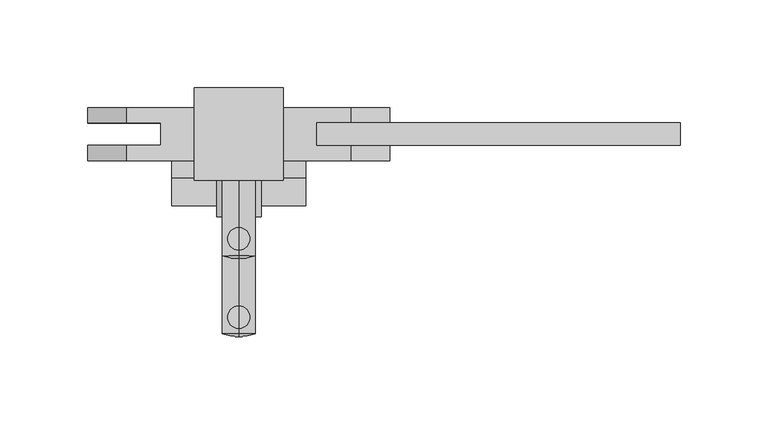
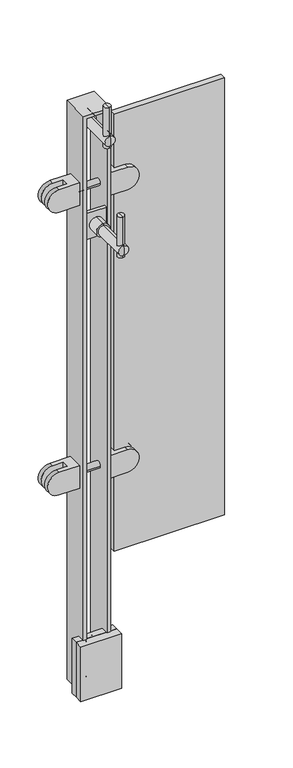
"""IFC4 building model written with IfcOpenShell, lengths in millimetres: proxy geometry, LIVERS_ICN - Glass Panel : LIVERS_ICN - Glass Panel."""

from ifc_helpers import new_model, si_unit, point, frame, origin, place, context, project, spatial, polyline, circle_curve, ellipse_curve, trimmed, outline, extrude, faceted_brep, source, transform, mapped, element, save
from ifc_brep_helpers import plane_surface, cylinder_surface, revolved_surface, advanced_brep


def building_element_proxy_ce7cafca(model_context):
    return source(origin(), model_context, "Body", "SolidModel", [
        advanced_brep(
        [(469.7283346, 60.3249609, 991.2180522), (469.7283346, 60.3249609, 978.5180522), (469.7283346, 60.3249609, 965.8180522), (469.7283346, 38.0999609, 991.2180522), (469.7283346, 38.0999609, 965.8180522), (469.7283346, 38.0999609, 978.5180522)],
        [
            (0, 1),
            (1, 2),
            (2, 0, circle_curve(frame((469.7283346, 60.3249609, 978.5180522), z_axis=(0.0, 1.0, 0.0), x_axis=(0.0, 0.0, -1.0)), 12.7)),
            (0, 2, circle_curve(frame((469.7283346, 60.3249609, 978.5180522), z_axis=(0.0, 1.0, 0.0), x_axis=(0.0, 0.0, -1.0)), 12.7)),
            (3, 0),
            (2, 4),
            (4, 3, circle_curve(frame((469.7283346, 38.0999609, 978.5180522), z_axis=(0.0, 1.0, 0.0), x_axis=(0.0, 0.0, -1.0)), 12.7)),
            (3, 4, circle_curve(frame((469.7283346, 38.0999609, 978.5180522), z_axis=(0.0, 1.0, 0.0), x_axis=(0.0, 0.0, -1.0)), 12.7)),
            (5, 3),
            (4, 5),
        ],
        [
            plane_surface(frame((469.7283346, 60.3249609, 978.5180522), z_axis=(0.0, 1.0, 0.0), x_axis=(0.0, 0.0, -1.0))),
            cylinder_surface(frame((469.7283346, 69.3828283, 978.5180522), z_axis=(0.0, -1.0, 0.0), x_axis=(0.0, 0.0, -1.0)), 12.7),
            plane_surface(frame((469.7283346, 38.0999609, 978.5180522), z_axis=(0.0, -1.0, 0.0), x_axis=(0.0, 0.0, -1.0))),
        ],
        [
            (0, [[1, 2, 3]]),
            (0, [[-2, -1, 4]]),
            (1, [[5, -3, 6, 7]]),
            (1, [[-6, -4, -5, 8]]),
            (2, [[9, -7, 10]]),
            (2, [[-10, -8, -9]]),
        ],
    ),
        advanced_brep(
        [(469.7283346, -25.4004131, 1043.1838845), (469.7283346, -19.0504161, 1043.1838845), (469.7283346, -12.7004191, 1043.1838845), (469.7283346, -25.4004131, 962.7878163), (469.7283346, -12.7004191, 962.7878163), (469.7283346, -19.0504161, 962.7878163)],
        [
            (0, 1),
            (1, 2),
            (2, 0, circle_curve(frame((469.7283346, -19.0504161, 1043.1838845), z_axis=(0.0, 0.0, 1.0), x_axis=(0.0, 1.0, 0.0)), 6.349997)),
            (0, 2, circle_curve(frame((469.7283346, -19.0504161, 1043.1838845), z_axis=(0.0, 0.0, 1.0), x_axis=(0.0, 1.0, 0.0)), 6.349997)),
            (3, 0),
            (2, 4),
            (4, 3, circle_curve(frame((469.7283346, -19.0504161, 962.7878163), z_axis=(0.0, 0.0, 1.0), x_axis=(0.0, 1.0, 0.0)), 6.349997)),
            (3, 4, circle_curve(frame((469.7283346, -19.0504161, 962.7878163), z_axis=(0.0, 0.0, 1.0), x_axis=(0.0, 1.0, 0.0)), 6.349997)),
            (5, 3),
            (4, 5),
        ],
        [
            plane_surface(frame((469.7283346, -19.0504161, 1043.1838845), z_axis=(0.0, 0.0, 1.0), x_axis=(0.0, 1.0, 0.0))),
            cylinder_surface(frame((469.7283346, -19.0504161, 1057.0348914), z_axis=(0.0, 0.0, -1.0), x_axis=(0.0, 1.0, 0.0)), 6.349997),
            plane_surface(frame((469.7283346, -19.0504161, 962.7878163), z_axis=(0.0, 0.0, -1.0), x_axis=(0.0, 1.0, 0.0))),
        ],
        [
            (0, [[1, 2, 3]]),
            (0, [[-2, -1, 4]]),
            (1, [[5, -3, 6, 7]]),
            (1, [[-6, -4, -5, 8]]),
            (2, [[9, -7, 10]]),
            (2, [[-10, -8, -9]]),
        ],
    ),
        advanced_brep(
        [(469.7283346, -30.1375464, 978.5180522), (469.7283346, -28.5500464, 988.0430522), (469.7283346, -28.5500464, 968.9930522), (469.7283346, 38.0999609, 988.0430522), (469.7283346, 38.0999609, 978.5180522), (469.7283346, 38.0999609, 968.9930522)],
        [
            (0, 1, circle_curve(frame((469.7283346, -0.7687964, 978.5180522), z_axis=(-1.0, 0.0, 0.0), x_axis=(0.0, 1.0, 0.0)), 29.36875)),
            (1, 2, circle_curve(frame((469.7283346, -28.5500464, 978.5180522), z_axis=(0.0, -1.0, 0.0), x_axis=(0.0, 0.0, -1.0)), 9.525)),
            (2, 0, circle_curve(frame((469.7283346, -0.7687964, 978.5180522), z_axis=(-1.0, 0.0, 0.0), x_axis=(0.0, 1.0, 0.0)), 29.36875)),
            (2, 1, circle_curve(frame((469.7283346, -28.5500464, 978.5180522), z_axis=(0.0, -1.0, 0.0), x_axis=(0.0, 0.0, -1.0)), 9.525)),
            (3, 4),
            (4, 5),
            (5, 3, circle_curve(frame((469.7283346, 38.0999609, 978.5180522), z_axis=(0.0, 1.0, 0.0), x_axis=(0.0, 0.0, -1.0)), 9.525)),
            (3, 5, circle_curve(frame((469.7283346, 38.0999609, 978.5180522), z_axis=(0.0, 1.0, 0.0), x_axis=(0.0, 0.0, -1.0)), 9.525)),
            (1, 3),
            (5, 2),
        ],
        [
            revolved_surface(trimmed(ellipse_curve(frame((469.7283346, -0.7687964, 978.5180522), z_axis=(-1.0, 0.0, 0.0), x_axis=(0.0, 1.0, 0.0)), 29.36875, 29.36875), [point((469.7283346, -28.5500464, 968.9930522))], [point((469.7283346, -30.1375464, 978.5180522))], True, "CARTESIAN"), (469.7283346, 30.3031204, 978.5180522), (0.0, -1.0, 0.0)),
            plane_surface(frame((469.7283346, 38.0999609, 978.5180522), z_axis=(0.0, 1.0, 0.0), x_axis=(0.0, 0.0, -1.0))),
            cylinder_surface(frame((469.7283346, 30.3031204, 978.5180522), z_axis=(0.0, -1.0, 0.0), x_axis=(0.0, 0.0, -1.0)), 9.525),
        ],
        [
            (0, [[1, 2, 3]]),
            (0, [[-3, 4, -1]]),
            (1, [[5, 6, 7]]),
            (1, [[-6, -5, 8]]),
            (2, [[9, -7, 10, -2]]),
            (2, [[-10, -8, -9, -4]]),
        ],
    ),
        extrude(outline(polyline([(488.7783346, 66.6749609), (488.7783346, 60.3249609), (450.6783346, 60.3249609), (450.6783346, 66.6749609), (488.7783346, 66.6749609)])), frame((0.0, 0.0, 953.1180522), z_axis=(0.0, 0.0, 1.0), x_axis=(1.0, 0.0, 0.0)), (0.0, 0.0, 1.0), 50.8),
        advanced_brep(
        [(469.7283346, 15.875, 802.0090959), (469.7283346, 15.875, 789.3090959), (469.7283346, 15.875, 776.6090959), (469.7283346, -6.35, 802.0090959), (469.7283346, -6.35, 776.6090959), (469.7283346, -6.35, 789.3090959)],
        [
            (0, 1),
            (1, 2),
            (2, 0, circle_curve(frame((469.7283346, 15.875, 789.3090959), z_axis=(0.0, 1.0, 0.0), x_axis=(0.0, 0.0, -1.0)), 12.7)),
            (0, 2, circle_curve(frame((469.7283346, 15.875, 789.3090959), z_axis=(0.0, 1.0, 0.0), x_axis=(0.0, 0.0, -1.0)), 12.7)),
            (3, 0),
            (2, 4),
            (4, 3, circle_curve(frame((469.7283346, -6.35, 789.3090959), z_axis=(0.0, 1.0, 0.0), x_axis=(0.0, 0.0, -1.0)), 12.7)),
            (3, 4, circle_curve(frame((469.7283346, -6.35, 789.3090959), z_axis=(0.0, 1.0, 0.0), x_axis=(0.0, 0.0, -1.0)), 12.7)),
            (5, 3),
            (4, 5),
        ],
        [
            plane_surface(frame((469.7283346, 15.875, 789.3090959), z_axis=(0.0, 1.0, 0.0), x_axis=(0.0, 0.0, -1.0))),
            cylinder_surface(frame((469.7283346, 24.9328674, 789.3090959), z_axis=(0.0, -1.0, 0.0), x_axis=(0.0, 0.0, -1.0)), 12.7),
            plane_surface(frame((469.7283346, -6.35, 789.3090959), z_axis=(0.0, -1.0, 0.0), x_axis=(0.0, 0.0, -1.0))),
        ],
        [
            (0, [[1, 2, 3]]),
            (0, [[-2, -1, 4]]),
            (1, [[5, -3, 6, 7]]),
            (1, [[-6, -4, -5, 8]]),
            (2, [[9, -7, 10]]),
            (2, [[-10, -8, -9]]),
        ],
    ),
        advanced_brep(
        [(469.7283346, -69.850374, 853.9749282), (469.7283346, -63.500377, 853.9749282), (469.7283346, -57.15038, 853.9749282), (469.7283346, -69.850374, 773.57886), (469.7283346, -57.15038, 773.57886), (469.7283346, -63.500377, 773.57886)],
        [
            (0, 1),
            (1, 2),
            (2, 0, circle_curve(frame((469.7283346, -63.500377, 853.9749282), z_axis=(0.0, 0.0, 1.0), x_axis=(0.0, 1.0, 0.0)), 6.349997)),
            (0, 2, circle_curve(frame((469.7283346, -63.500377, 853.9749282), z_axis=(0.0, 0.0, 1.0), x_axis=(0.0, 1.0, 0.0)), 6.349997)),
            (3, 0),
            (2, 4),
            (4, 3, circle_curve(frame((469.7283346, -63.500377, 773.57886), z_axis=(0.0, 0.0, 1.0), x_axis=(0.0, 1.0, 0.0)), 6.349997)),
            (3, 4, circle_curve(frame((469.7283346, -63.500377, 773.57886), z_axis=(0.0, 0.0, 1.0), x_axis=(0.0, 1.0, 0.0)), 6.349997)),
            (5, 3),
            (4, 5),
        ],
        [
            plane_surface(frame((469.7283346, -63.500377, 853.9749282), z_axis=(0.0, 0.0, 1.0), x_axis=(0.0, 1.0, 0.0))),
            cylinder_surface(frame((469.7283346, -63.500377, 867.8259351), z_axis=(0.0, 0.0, -1.0), x_axis=(0.0, 1.0, 0.0)), 6.349997),
            plane_surface(frame((469.7283346, -63.500377, 773.57886), z_axis=(0.0, 0.0, -1.0), x_axis=(0.0, 1.0, 0.0))),
        ],
        [
            (0, [[1, 2, 3]]),
            (0, [[-2, -1, 4]]),
            (1, [[5, -3, 6, 7]]),
            (1, [[-6, -4, -5, 8]]),
            (2, [[9, -7, 10]]),
            (2, [[-10, -8, -9]]),
        ],
    ),
        advanced_brep(
        [(469.7283346, -74.5875073, 789.3090959), (469.7283346, -73.0000073, 798.8340959), (469.7283346, -73.0000073, 779.7840959), (469.7283346, -6.35, 798.8340959), (469.7283346, -6.35, 789.3090959), (469.7283346, -6.35, 779.7840959)],
        [
            (0, 1, circle_curve(frame((469.7283346, -45.2187573, 789.3090959), z_axis=(-1.0, 0.0, 0.0), x_axis=(0.0, 1.0, 0.0)), 29.36875)),
            (1, 2, circle_curve(frame((469.7283346, -73.0000073, 789.3090959), z_axis=(0.0, -1.0, 0.0), x_axis=(0.0, 0.0, -1.0)), 9.525)),
            (2, 0, circle_curve(frame((469.7283346, -45.2187573, 789.3090959), z_axis=(-1.0, 0.0, 0.0), x_axis=(0.0, 1.0, 0.0)), 29.36875)),
            (2, 1, circle_curve(frame((469.7283346, -73.0000073, 789.3090959), z_axis=(0.0, -1.0, 0.0), x_axis=(0.0, 0.0, -1.0)), 9.525)),
            (3, 4),
            (4, 5),
            (5, 3, circle_curve(frame((469.7283346, -6.35, 789.3090959), z_axis=(0.0, 1.0, 0.0), x_axis=(0.0, 0.0, -1.0)), 9.525)),
            (3, 5, circle_curve(frame((469.7283346, -6.35, 789.3090959), z_axis=(0.0, 1.0, 0.0), x_axis=(0.0, 0.0, -1.0)), 9.525)),
            (1, 3),
            (5, 2),
        ],
        [
            revolved_surface(trimmed(ellipse_curve(frame((469.7283346, -45.2187573, 789.3090959), z_axis=(-1.0, 0.0, 0.0), x_axis=(0.0, 1.0, 0.0)), 29.36875, 29.36875), [point((469.7283346, -73.0000073, 779.7840959))], [point((469.7283346, -74.5875073, 789.3090959))], True, "CARTESIAN"), (469.7283346, -14.1468405, 789.3090959), (0.0, -1.0, 0.0)),
            plane_surface(frame((469.7283346, -6.35, 789.3090959), z_axis=(0.0, 1.0, 0.0), x_axis=(0.0, 0.0, -1.0))),
            cylinder_surface(frame((469.7283346, -14.1468405, 789.3090959), z_axis=(0.0, -1.0, 0.0), x_axis=(0.0, 0.0, -1.0)), 9.525),
        ],
        [
            (0, [[1, 2, 3]]),
            (0, [[-3, 4, -1]]),
            (1, [[5, 6, 7]]),
            (1, [[-6, -5, 8]]),
            (2, [[9, -7, 10, -2]]),
            (2, [[-10, -8, -9, -4]]),
        ],
    ),
        extrude(outline(polyline([(488.7783346, 22.225), (488.7783346, 15.875), (450.6783346, 15.875), (450.6783346, 22.225), (488.7783346, 22.225)])), frame((0.0, 0.0, 763.9090959), z_axis=(0.0, 0.0, 1.0), x_axis=(1.0, 0.0, 0.0)), (0.0, 0.0, 1.0), 50.8),
        advanced_brep(
        [(444.3283346, 55.5624457, 313.5369168), (444.3283346, 25.3999457, 313.5369168), (444.3283346, 25.3999457, 269.0869168), (444.3283346, 55.5624457, 269.0869168), (406.1272406, 55.5624457, 269.0869168), (406.1272406, 55.5624457, 313.5369168), (406.1272406, 25.3999457, 269.0869168), (406.1272406, 34.1311957, 269.0869168), (425.4564154, 34.1311957, 269.0869168), (425.4564154, 46.8311957, 269.0869168), (406.1272406, 46.8311957, 269.0869168), (406.1272406, 25.3999457, 313.5369168), (406.1272406, 46.8311957, 313.5369168), (425.4564154, 46.8311957, 313.5369168), (425.4564154, 34.1311957, 313.5369168), (406.1272406, 34.1311957, 313.5369168)],
        [
            (0, 1),
            (1, 2),
            (2, 3),
            (3, 0),
            (3, 4),
            (4, 5, circle_curve(frame((406.1272406, 55.5624457, 291.3119168), z_axis=(0.0, 1.0, 0.0), x_axis=(0.0, 0.0, -1.0)), 22.225)),
            (5, 0),
            (2, 6),
            (6, 7),
            (7, 8),
            (8, 9),
            (9, 10),
            (10, 4),
            (1, 11),
            (11, 6, circle_curve(frame((406.1272406, 25.3999457, 291.3119168), z_axis=(0.0, -1.0, 0.0), x_axis=(0.0, 0.0, -1.0)), 22.225)),
            (5, 12),
            (12, 13),
            (13, 14),
            (14, 15),
            (15, 11),
            (13, 9),
            (8, 14),
            (12, 10, circle_curve(frame((406.1272406, 46.8311957, 291.3119168), z_axis=(0.0, -1.0, 0.0), x_axis=(0.0, 0.0, -1.0)), 22.225)),
            (7, 15, circle_curve(frame((406.1272406, 34.1311957, 291.3119168), z_axis=(0.0, 1.0, 0.0), x_axis=(0.0, 0.0, -1.0)), 22.225)),
        ],
        [
            plane_surface(frame((444.3283346, 55.5624457, 269.0869168), z_axis=(1.0, 0.0, 0.0), x_axis=(0.0, 0.0, 1.0))),
            plane_surface(frame((383.8252538, 55.5624457, 313.5369168), z_axis=(0.0, 1.0, 0.0), x_axis=(1.0, 0.0, 0.0))),
            plane_surface(frame((383.8252538, 55.5624457, 269.0869168), z_axis=(0.0, 0.0, -1.0), x_axis=(1.0, 0.0, 0.0))),
            plane_surface(frame((383.8252538, 25.3999457, 269.0869168), z_axis=(0.0, -1.0, 0.0), x_axis=(1.0, 0.0, 0.0))),
            plane_surface(frame((383.8252538, 25.3999457, 313.5369168), z_axis=(0.0, 0.0, 1.0), x_axis=(1.0, 0.0, 0.0))),
            plane_surface(frame((425.4564154, 46.8311957, 269.0869168), z_axis=(-1.0, 0.0, 0.0), x_axis=(0.0, 0.0, 1.0))),
            plane_surface(frame((383.8252538, 46.8311957, 313.5369168), z_axis=(0.0, -1.0, 0.0), x_axis=(1.0, 0.0, 0.0))),
            plane_surface(frame((383.8252538, 34.1311957, 269.0869168), z_axis=(0.0, 1.0, 0.0), x_axis=(1.0, 0.0, 0.0))),
            cylinder_surface(frame((406.1272406, 55.5624457, 291.3119168), z_axis=(0.0, 1.0, 0.0), x_axis=(0.0, 0.0, -1.0)), 22.225),
        ],
        [
            (0, [[1, 2, 3, 4]]),
            (1, [[-4, 5, 6, 7]]),
            (2, [[-3, 8, 9, 10, 11, 12, 13, -5]]),
            (3, [[-2, 14, 15, -8]]),
            (4, [[-1, -7, 16, 17, 18, 19, 20, -14]]),
            (5, [[21, -11, 22, -18]]),
            (6, [[-21, -17, 23, -12]]),
            (7, [[-22, -10, 24, -19]]),
            (8, [[-6, -13, -23, -16]]),
            (8, [[-9, -15, -20, -24]]),
        ],
    ),
        advanced_brep(
        [(495.1283346, 55.5624457, 313.5369168), (495.1283346, 55.5624457, 269.0869168), (495.1283346, 25.3999457, 269.0869168), (495.1283346, 25.3999457, 313.5369168), (533.3294286, 55.5624457, 313.5369168), (533.3294286, 55.5624457, 269.0869168), (533.3294286, 46.8311957, 269.0869168), (514.0002538, 46.8311957, 269.0869168), (514.0002538, 34.1311957, 269.0869168), (533.3294286, 34.1311957, 269.0869168), (533.3294286, 25.3999457, 269.0869168), (533.3294286, 25.3999457, 313.5369168), (533.3294286, 34.1311957, 313.5369168), (514.0002538, 34.1311957, 313.5369168), (514.0002538, 46.8311957, 313.5369168), (533.3294286, 46.8311957, 313.5369168)],
        [
            (0, 1),
            (1, 2),
            (2, 3),
            (3, 0),
            (0, 4),
            (4, 5, circle_curve(frame((533.3294286, 55.5624457, 291.3119168), z_axis=(0.0, 1.0, 0.0), x_axis=(0.0, 0.0, -1.0)), 22.225)),
            (5, 1),
            (5, 6),
            (6, 7),
            (7, 8),
            (8, 9),
            (9, 10),
            (10, 2),
            (10, 11, circle_curve(frame((533.3294286, 25.3999457, 291.3119168), z_axis=(0.0, -1.0, 0.0), x_axis=(0.0, 0.0, -1.0)), 22.225)),
            (11, 3),
            (11, 12),
            (12, 13),
            (13, 14),
            (14, 15),
            (15, 4),
            (13, 8),
            (7, 14),
            (6, 15, circle_curve(frame((533.3294286, 46.8311957, 291.3119168), z_axis=(0.0, -1.0, 0.0), x_axis=(0.0, 0.0, -1.0)), 22.225)),
            (12, 9, circle_curve(frame((533.3294286, 34.1311957, 291.3119168), z_axis=(0.0, 1.0, 0.0), x_axis=(0.0, 0.0, -1.0)), 22.225)),
        ],
        [
            plane_surface(frame((495.1283346, 55.5624457, 269.0869168), z_axis=(-1.0, 0.0, 0.0), x_axis=(0.0, 0.0, 1.0))),
            plane_surface(frame((555.6314154, 55.5624457, 313.5369168), z_axis=(0.0, 1.0, 0.0), x_axis=(-1.0, 0.0, 0.0))),
            plane_surface(frame((555.6314154, 55.5624457, 269.0869168), z_axis=(0.0, 0.0, -1.0), x_axis=(-1.0, 0.0, 0.0))),
            plane_surface(frame((555.6314154, 25.3999457, 269.0869168), z_axis=(0.0, -1.0, 0.0), x_axis=(-1.0, 0.0, 0.0))),
            plane_surface(frame((555.6314154, 25.3999457, 313.5369168), z_axis=(0.0, 0.0, 1.0), x_axis=(-1.0, 0.0, 0.0))),
            plane_surface(frame((514.0002538, 46.8311957, 269.0869168), z_axis=(1.0, 0.0, 0.0), x_axis=(0.0, 0.0, 1.0))),
            plane_surface(frame((555.6314154, 46.8311957, 313.5369168), z_axis=(0.0, -1.0, 0.0), x_axis=(-1.0, 0.0, 0.0))),
            plane_surface(frame((555.6314154, 34.1311957, 269.0869168), z_axis=(0.0, 1.0, 0.0), x_axis=(-1.0, 0.0, 0.0))),
            cylinder_surface(frame((533.3294286, 55.5624457, 291.3119168), z_axis=(0.0, 1.0, 0.0), x_axis=(0.0, 0.0, -1.0)), 22.225),
        ],
        [
            (0, [[1, 2, 3, 4]]),
            (1, [[5, 6, 7, -1]]),
            (2, [[-7, 8, 9, 10, 11, 12, 13, -2]]),
            (3, [[-13, 14, 15, -3]]),
            (4, [[-15, 16, 17, 18, 19, 20, -5, -4]]),
            (5, [[-18, 21, -10, 22]]),
            (6, [[-9, 23, -19, -22]]),
            (7, [[-17, 24, -11, -21]]),
            (8, [[-20, -23, -8, -6]]),
            (8, [[-24, -16, -14, -12]]),
        ],
    ),
        advanced_brep(
        [(444.3283346, 55.5624457, 872.3369168), (444.3283346, 25.3999457, 872.3369168), (444.3283346, 25.3999457, 827.8869168), (444.3283346, 55.5624457, 827.8869168), (406.1272406, 55.5624457, 827.8869168), (406.1272406, 55.5624457, 872.3369168), (406.1272406, 25.3999457, 827.8869168), (406.1272406, 34.1311957, 827.8869168), (425.4564154, 34.1311957, 827.8869168), (425.4564154, 46.8311957, 827.8869168), (406.1272406, 46.8311957, 827.8869168), (406.1272406, 25.3999457, 872.3369168), (406.1272406, 46.8311957, 872.3369168), (425.4564154, 46.8311957, 872.3369168), (425.4564154, 34.1311957, 872.3369168), (406.1272406, 34.1311957, 872.3369168)],
        [
            (0, 1),
            (1, 2),
            (2, 3),
            (3, 0),
            (3, 4),
            (4, 5, circle_curve(frame((406.1272406, 55.5624457, 850.1119168), z_axis=(0.0, 1.0, 0.0), x_axis=(0.0, 0.0, -1.0)), 22.225)),
            (5, 0),
            (2, 6),
            (6, 7),
            (7, 8),
            (8, 9),
            (9, 10),
            (10, 4),
            (1, 11),
            (11, 6, circle_curve(frame((406.1272406, 25.3999457, 850.1119168), z_axis=(0.0, -1.0, 0.0), x_axis=(0.0, 0.0, -1.0)), 22.225)),
            (5, 12),
            (12, 13),
            (13, 14),
            (14, 15),
            (15, 11),
            (13, 9),
            (8, 14),
            (12, 10, circle_curve(frame((406.1272406, 46.8311957, 850.1119168), z_axis=(0.0, -1.0, 0.0), x_axis=(0.0, 0.0, -1.0)), 22.225)),
            (7, 15, circle_curve(frame((406.1272406, 34.1311957, 850.1119168), z_axis=(0.0, 1.0, 0.0), x_axis=(0.0, 0.0, -1.0)), 22.225)),
        ],
        [
            plane_surface(frame((444.3283346, 55.5624457, 827.8869168), z_axis=(1.0, 0.0, 0.0), x_axis=(0.0, 0.0, 1.0))),
            plane_surface(frame((383.8252538, 55.5624457, 872.3369168), z_axis=(0.0, 1.0, 0.0), x_axis=(1.0, 0.0, 0.0))),
            plane_surface(frame((383.8252538, 55.5624457, 827.8869168), z_axis=(0.0, 0.0, -1.0), x_axis=(1.0, 0.0, 0.0))),
            plane_surface(frame((383.8252538, 25.3999457, 827.8869168), z_axis=(0.0, -1.0, 0.0), x_axis=(1.0, 0.0, 0.0))),
            plane_surface(frame((383.8252538, 25.3999457, 872.3369168), z_axis=(0.0, 0.0, 1.0), x_axis=(1.0, 0.0, 0.0))),
            plane_surface(frame((425.4564154, 46.8311957, 827.8869168), z_axis=(-1.0, 0.0, 0.0), x_axis=(0.0, 0.0, 1.0))),
            plane_surface(frame((383.8252538, 46.8311957, 872.3369168), z_axis=(0.0, -1.0, 0.0), x_axis=(1.0, 0.0, 0.0))),
            plane_surface(frame((383.8252538, 34.1311957, 827.8869168), z_axis=(0.0, 1.0, 0.0), x_axis=(1.0, 0.0, 0.0))),
            cylinder_surface(frame((406.1272406, 55.5624457, 850.1119168), z_axis=(0.0, 1.0, 0.0), x_axis=(0.0, 0.0, -1.0)), 22.225),
        ],
        [
            (0, [[1, 2, 3, 4]]),
            (1, [[-4, 5, 6, 7]]),
            (2, [[-3, 8, 9, 10, 11, 12, 13, -5]]),
            (3, [[-2, 14, 15, -8]]),
            (4, [[-1, -7, 16, 17, 18, 19, 20, -14]]),
            (5, [[21, -11, 22, -18]]),
            (6, [[-21, -17, 23, -12]]),
            (7, [[-22, -10, 24, -19]]),
            (8, [[-6, -13, -23, -16]]),
            (8, [[-9, -15, -20, -24]]),
        ],
    ),
        advanced_brep(
        [(495.1283346, 55.5624457, 872.3369168), (495.1283346, 55.5624457, 827.8869168), (495.1283346, 25.3999457, 827.8869168), (495.1283346, 25.3999457, 872.3369168), (533.3294286, 55.5624457, 872.3369168), (533.3294286, 55.5624457, 827.8869168), (533.3294286, 46.8311957, 827.8869168), (514.0002538, 46.8311957, 827.8869168), (514.0002538, 34.1311957, 827.8869168), (533.3294286, 34.1311957, 827.8869168), (533.3294286, 25.3999457, 827.8869168), (533.3294286, 25.3999457, 872.3369168), (533.3294286, 34.1311957, 872.3369168), (514.0002538, 34.1311957, 872.3369168), (514.0002538, 46.8311957, 872.3369168), (533.3294286, 46.8311957, 872.3369168)],
        [
            (0, 1),
            (1, 2),
            (2, 3),
            (3, 0),
            (0, 4),
            (4, 5, circle_curve(frame((533.3294286, 55.5624457, 850.1119168), z_axis=(0.0, 1.0, 0.0), x_axis=(0.0, 0.0, -1.0)), 22.225)),
            (5, 1),
            (5, 6),
            (6, 7),
            (7, 8),
            (8, 9),
            (9, 10),
            (10, 2),
            (10, 11, circle_curve(frame((533.3294286, 25.3999457, 850.1119168), z_axis=(0.0, -1.0, 0.0), x_axis=(0.0, 0.0, -1.0)), 22.225)),
            (11, 3),
            (11, 12),
            (12, 13),
            (13, 14),
            (14, 15),
            (15, 4),
            (13, 8),
            (7, 14),
            (6, 15, circle_curve(frame((533.3294286, 46.8311957, 850.1119168), z_axis=(0.0, -1.0, 0.0), x_axis=(0.0, 0.0, -1.0)), 22.225)),
            (12, 9, circle_curve(frame((533.3294286, 34.1311957, 850.1119168), z_axis=(0.0, 1.0, 0.0), x_axis=(0.0, 0.0, -1.0)), 22.225)),
        ],
        [
            plane_surface(frame((495.1283346, 55.5624457, 827.8869168), z_axis=(-1.0, 0.0, 0.0), x_axis=(0.0, 0.0, 1.0))),
            plane_surface(frame((555.6314154, 55.5624457, 872.3369168), z_axis=(0.0, 1.0, 0.0), x_axis=(-1.0, 0.0, 0.0))),
            plane_surface(frame((555.6314154, 55.5624457, 827.8869168), z_axis=(0.0, 0.0, -1.0), x_axis=(-1.0, 0.0, 0.0))),
            plane_surface(frame((555.6314154, 25.3999457, 827.8869168), z_axis=(0.0, -1.0, 0.0), x_axis=(-1.0, 0.0, 0.0))),
            plane_surface(frame((555.6314154, 25.3999457, 872.3369168), z_axis=(0.0, 0.0, 1.0), x_axis=(-1.0, 0.0, 0.0))),
            plane_surface(frame((514.0002538, 46.8311957, 827.8869168), z_axis=(1.0, 0.0, 0.0), x_axis=(0.0, 0.0, 1.0))),
            plane_surface(frame((555.6314154, 46.8311957, 872.3369168), z_axis=(0.0, -1.0, 0.0), x_axis=(-1.0, 0.0, 0.0))),
            plane_surface(frame((555.6314154, 34.1311957, 827.8869168), z_axis=(0.0, 1.0, 0.0), x_axis=(-1.0, 0.0, 0.0))),
            cylinder_surface(frame((533.3294286, 55.5624457, 850.1119168), z_axis=(0.0, 1.0, 0.0), x_axis=(0.0, 0.0, -1.0)), 22.225),
        ],
        [
            (0, [[1, 2, 3, 4]]),
            (1, [[5, 6, 7, -1]]),
            (2, [[-7, 8, 9, 10, 11, 12, 13, -2]]),
            (3, [[-13, 14, 15, -3]]),
            (4, [[-15, 16, 17, 18, 19, 20, -5, -4]]),
            (5, [[-18, 21, -10, 22]]),
            (6, [[-9, 23, -19, -22]]),
            (7, [[-17, 24, -11, -21]]),
            (8, [[-20, -23, -8, -6]]),
            (8, [[-24, -16, -14, -12]]),
        ],
    ),
        advanced_brep(
        [(469.7283346, 28.575, -125.3541166), (469.7283346, 29.7562407, -125.3541166), (469.7283346, 29.7562407, -103.1291055), (469.7283346, 28.575, -103.1291055), (469.7283346, 28.575, -114.2416111), (469.7283346, 32.325, -119.8541166), (469.7283346, 30.8816229, -114.2416111), (469.7283346, 32.325, -108.6291055), (469.7283346, 34.8740117, -119.8541166), (469.7283346, 34.8740117, -108.6291055), (469.7283346, 33.8500285, -122.802123), (469.7283346, 33.8500285, -105.6810991), (469.7283346, 31.8562692, -124.5603989), (469.7283346, 31.8562692, -103.9228232)],
        [
            (0, 1),
            (1, 2, circle_curve(frame((469.7283346, 29.7562407, -114.2416111), z_axis=(0.0, -1.0, 0.0), x_axis=(0.0, 0.0, 1.0)), 11.1125056)),
            (2, 3),
            (3, 0, circle_curve(frame((469.7283346, 28.575, -114.2416111), z_axis=(0.0, 1.0, 0.0), x_axis=(0.0, 0.0, 1.0)), 11.1125056)),
            (2, 1, circle_curve(frame((469.7283346, 29.7562407, -114.2416111), z_axis=(0.0, -1.0, 0.0), x_axis=(0.0, 0.0, 1.0)), 11.1125056)),
            (0, 3, circle_curve(frame((469.7283346, 28.575, -114.2416111), z_axis=(0.0, 1.0, 0.0), x_axis=(0.0, 0.0, 1.0)), 11.1125056)),
            (4, 0),
            (3, 4),
            (5, 6),
            (6, 7),
            (7, 5, circle_curve(frame((469.7283346, 32.325, -114.2416111), z_axis=(0.0, 1.0, 0.0), x_axis=(0.0, 0.0, 1.0)), 5.6125056)),
            (5, 7, circle_curve(frame((469.7283346, 32.325, -114.2416111), z_axis=(0.0, 1.0, 0.0), x_axis=(0.0, 0.0, 1.0)), 5.6125056)),
            (8, 5),
            (7, 9),
            (9, 8, circle_curve(frame((469.7283346, 34.8740117, -114.2416111), z_axis=(0.0, 1.0, 0.0), x_axis=(0.0, 0.0, 1.0)), 5.6125056)),
            (8, 9, circle_curve(frame((469.7283346, 34.8740117, -114.2416111), z_axis=(0.0, 1.0, 0.0), x_axis=(0.0, 0.0, 1.0)), 5.6125056)),
            (10, 8, circle_curve(frame((469.7283346, 31.75, -120.4208407), z_axis=(1.0, 0.0, 0.0), x_axis=(0.0, -1.0, 0.0)), 3.175)),
            (9, 11, circle_curve(frame((469.7283346, 31.75, -108.0623814), z_axis=(1.0, 0.0, 0.0), x_axis=(0.0, -1.0, 0.0)), 3.175)),
            (11, 10, circle_curve(frame((469.7283346, 33.8500285, -114.2416111), z_axis=(0.0, 1.0, 0.0), x_axis=(0.0, 0.0, 1.0)), 8.560512)),
            (10, 11, circle_curve(frame((469.7283346, 33.8500285, -114.2416111), z_axis=(0.0, 1.0, 0.0), x_axis=(0.0, 0.0, 1.0)), 8.560512)),
            (12, 10),
            (11, 13),
            (13, 12, circle_curve(frame((469.7283346, 31.8562692, -114.2416111), z_axis=(0.0, 1.0, 0.0), x_axis=(0.0, 0.0, 1.0)), 10.3187879)),
            (12, 13, circle_curve(frame((469.7283346, 31.8562692, -114.2416111), z_axis=(0.0, 1.0, 0.0), x_axis=(0.0, 0.0, 1.0)), 10.3187879)),
            (1, 12, circle_curve(frame((469.7283346, 29.7562407, -122.1791166), z_axis=(1.0, 0.0, 0.0), x_axis=(0.0, -1.0, 0.0)), 3.175)),
            (13, 2, circle_curve(frame((469.7283346, 29.7562407, -106.3041055), z_axis=(1.0, 0.0, 0.0), x_axis=(0.0, -1.0, 0.0)), 3.175)),
        ],
        [
            cylinder_surface(frame((469.7283346, 28.575, -114.2416111), z_axis=(0.0, -1.0, 0.0), x_axis=(0.0, 0.0, 1.0)), 11.1125056),
            plane_surface(frame((469.7283346, 28.575, -114.2416111), z_axis=(0.0, -1.0, 0.0), x_axis=(0.0, 0.0, 1.0))),
            revolved_surface(polyline([(469.7283346, 30.8816229, -114.2416111), (469.7283346, 32.325, -108.6291055)]), (469.7283346, 28.575, -114.2416111), (0.0, -1.0, 0.0)),
            revolved_surface(polyline([(469.7283346, 32.325, -108.6291055), (469.7283346, 34.8740117, -108.6291055)]), (469.7283346, 28.575, -114.2416111), (0.0, -1.0, 0.0)),
            revolved_surface(trimmed(ellipse_curve(frame((469.7283346, 31.75, -108.0623814), z_axis=(1.0, 0.0, 0.0), x_axis=(0.0, -1.0, 0.0)), 3.175, 3.175), [point((469.7283346, 34.8740117, -108.6291055))], [point((469.7283346, 33.8500285, -105.6810991))], True, "CARTESIAN"), (469.7283346, 28.575, -114.2416111), (0.0, -1.0, 0.0)),
            revolved_surface(polyline([(469.7283346, 33.8500285, -105.6810991), (469.7283346, 31.8562692, -103.9228232)]), (469.7283346, 28.575, -114.2416111), (0.0, -1.0, 0.0)),
            revolved_surface(trimmed(ellipse_curve(frame((469.7283346, 29.7562407, -106.3041055), z_axis=(1.0, 0.0, 0.0), x_axis=(0.0, -1.0, 0.0)), 3.175, 3.175), [point((469.7283346, 31.8562692, -103.9228232))], [point((469.7283346, 29.7562407, -103.1291055))], True, "CARTESIAN"), (469.7283346, 28.575, -114.2416111), (0.0, -1.0, 0.0)),
        ],
        [
            (0, [[1, 2, 3, 4]]),
            (0, [[-3, 5, -1, 6]]),
            (1, [[7, -4, 8]]),
            (1, [[-8, -6, -7]]),
            (2, [[9, 10, 11]]),
            (2, [[-10, -9, 12]]),
            (3, [[13, -11, 14, 15]]),
            (3, [[-14, -12, -13, 16]]),
            (4, [[17, -15, 18, 19]]),
            (4, [[-18, -16, -17, 20]]),
            (5, [[21, -19, 22, 23]]),
            (5, [[-22, -20, -21, 24]]),
            (6, [[25, -23, 26, -2]]),
            (6, [[-26, -24, -25, -5]]),
        ],
    ),
        advanced_brep(
        [(469.7283346, 28.575, -55.5041166), (469.7283346, 29.7562407, -55.5041166), (469.7283346, 29.7562407, -33.2791055), (469.7283346, 28.575, -33.2791055), (469.7283346, 28.575, -44.3916111), (469.7283346, 33.8500285, -52.952123), (469.7283346, 34.8740117, -50.0041166), (469.7283346, 34.8740117, -38.7791055), (469.7283346, 33.8500285, -35.8310991), (469.7283346, 31.8562692, -54.7103989), (469.7283346, 31.8562692, -34.0728232), (469.7283346, 32.325, -50.0041166), (469.7283346, 30.8816229, -44.3916111), (469.7283346, 32.325, -38.7791055)],
        [
            (0, 1),
            (1, 2, circle_curve(frame((469.7283346, 29.7562407, -44.3916111), z_axis=(0.0, -1.0, 0.0), x_axis=(0.0, 0.0, 1.0)), 11.1125056)),
            (2, 3),
            (3, 0, circle_curve(frame((469.7283346, 28.575, -44.3916111), z_axis=(0.0, 1.0, 0.0), x_axis=(0.0, 0.0, 1.0)), 11.1125056)),
            (2, 1, circle_curve(frame((469.7283346, 29.7562407, -44.3916111), z_axis=(0.0, -1.0, 0.0), x_axis=(0.0, 0.0, 1.0)), 11.1125056)),
            (0, 3, circle_curve(frame((469.7283346, 28.575, -44.3916111), z_axis=(0.0, 1.0, 0.0), x_axis=(0.0, 0.0, 1.0)), 11.1125056)),
            (4, 0),
            (3, 4),
            (5, 6, circle_curve(frame((469.7283346, 31.75, -50.5708407), z_axis=(1.0, 0.0, 0.0), x_axis=(0.0, -1.0, 0.0)), 3.175)),
            (6, 7, circle_curve(frame((469.7283346, 34.8740117, -44.3916111), z_axis=(0.0, -1.0, 0.0), x_axis=(0.0, 0.0, 1.0)), 5.6125056)),
            (7, 8, circle_curve(frame((469.7283346, 31.75, -38.2123814), z_axis=(1.0, 0.0, 0.0), x_axis=(0.0, -1.0, 0.0)), 3.175)),
            (8, 5, circle_curve(frame((469.7283346, 33.8500285, -44.3916111), z_axis=(0.0, 1.0, 0.0), x_axis=(0.0, 0.0, 1.0)), 8.560512)),
            (7, 6, circle_curve(frame((469.7283346, 34.8740117, -44.3916111), z_axis=(0.0, -1.0, 0.0), x_axis=(0.0, 0.0, 1.0)), 5.6125056)),
            (5, 8, circle_curve(frame((469.7283346, 33.8500285, -44.3916111), z_axis=(0.0, 1.0, 0.0), x_axis=(0.0, 0.0, 1.0)), 8.560512)),
            (9, 5),
            (8, 10),
            (10, 9, circle_curve(frame((469.7283346, 31.8562692, -44.3916111), z_axis=(0.0, 1.0, 0.0), x_axis=(0.0, 0.0, 1.0)), 10.3187879)),
            (9, 10, circle_curve(frame((469.7283346, 31.8562692, -44.3916111), z_axis=(0.0, 1.0, 0.0), x_axis=(0.0, 0.0, 1.0)), 10.3187879)),
            (1, 9, circle_curve(frame((469.7283346, 29.7562407, -52.3291166), z_axis=(1.0, 0.0, 0.0), x_axis=(0.0, -1.0, 0.0)), 3.175)),
            (10, 2, circle_curve(frame((469.7283346, 29.7562407, -36.4541055), z_axis=(1.0, 0.0, 0.0), x_axis=(0.0, -1.0, 0.0)), 3.175)),
            (11, 12),
            (12, 13),
            (13, 11, circle_curve(frame((469.7283346, 32.325, -44.3916111), z_axis=(0.0, 1.0, 0.0), x_axis=(0.0, 0.0, 1.0)), 5.6125056)),
            (11, 13, circle_curve(frame((469.7283346, 32.325, -44.3916111), z_axis=(0.0, 1.0, 0.0), x_axis=(0.0, 0.0, 1.0)), 5.6125056)),
            (6, 11),
            (13, 7),
        ],
        [
            cylinder_surface(frame((469.7283346, 28.575, -44.3916111), z_axis=(0.0, -1.0, 0.0), x_axis=(0.0, 0.0, 1.0)), 11.1125056),
            plane_surface(frame((469.7283346, 28.575, -44.3916111), z_axis=(0.0, -1.0, 0.0), x_axis=(0.0, 0.0, 1.0))),
            revolved_surface(trimmed(ellipse_curve(frame((469.7283346, 31.75, -38.2123814), z_axis=(1.0, 0.0, 0.0), x_axis=(0.0, -1.0, 0.0)), 3.175, 3.175), [point((469.7283346, 34.8740117, -38.7791055))], [point((469.7283346, 33.8500285, -35.8310991))], True, "CARTESIAN"), (469.7283346, 28.575, -44.3916111), (0.0, -1.0, 0.0)),
            revolved_surface(polyline([(469.7283346, 33.8500285, -35.8310991), (469.7283346, 31.8562692, -34.0728232)]), (469.7283346, 28.575, -44.3916111), (0.0, -1.0, 0.0)),
            revolved_surface(trimmed(ellipse_curve(frame((469.7283346, 29.7562407, -36.4541055), z_axis=(1.0, 0.0, 0.0), x_axis=(0.0, -1.0, 0.0)), 3.175, 3.175), [point((469.7283346, 31.8562692, -34.0728232))], [point((469.7283346, 29.7562407, -33.2791055))], True, "CARTESIAN"), (469.7283346, 28.575, -44.3916111), (0.0, -1.0, 0.0)),
            revolved_surface(polyline([(469.7283346, 30.8816229, -44.3916111), (469.7283346, 32.325, -38.7791055)]), (469.7283346, 28.575, -44.3916111), (0.0, -1.0, 0.0)),
            revolved_surface(polyline([(469.7283346, 32.325, -38.7791055), (469.7283346, 34.8740117, -38.7791055)]), (469.7283346, 28.575, -44.3916111), (0.0, -1.0, 0.0)),
        ],
        [
            (0, [[1, 2, 3, 4]]),
            (0, [[-3, 5, -1, 6]]),
            (1, [[7, -4, 8]]),
            (1, [[-8, -6, -7]]),
            (2, [[9, 10, 11, 12]]),
            (2, [[-11, 13, -9, 14]]),
            (3, [[15, -12, 16, 17]]),
            (3, [[-16, -14, -15, 18]]),
            (4, [[19, -17, 20, -2]]),
            (4, [[-20, -18, -19, -5]]),
            (5, [[21, 22, 23]]),
            (5, [[-22, -21, 24]]),
            (6, [[25, -23, 26, -10]]),
            (6, [[-26, -24, -25, -13]]),
        ],
    ),
        faceted_brep([(495.1283346, 14.2874305, 1010.2680522), (495.1283346, 14.2874305, -133.2916111), (495.1283346, 15.875, -133.2916111), (495.1283346, 15.875, -25.3416111), (495.1283346, 28.575, -25.3416111), (495.1283346, 28.575, -133.2916111), (495.1283346, 66.6749609, -133.2916111), (495.1283346, 66.6749609, 1010.2680522), (488.7783346, 66.6749609, -133.2916111), (488.7783346, 28.575, -133.2916111), (488.7783346, 28.575, -25.3416111), (488.7783346, 15.875, -25.3416111), (488.7783346, 15.875, -133.2916111), (488.7783346, 14.2874305, -133.2916111), (488.7783346, 14.2874305, 1003.9180522), (488.7783346, 66.6749609, 1003.9180522), (431.6283346, 28.575, -133.2916111), (444.3283346, 28.575, -133.2916111), (444.3283346, 66.6749609, -133.2916111), (450.6783346, 66.6749609, -133.2916111), (450.6783346, 28.575, -133.2916111), (507.8283346, 28.575, -133.2916111), (507.8283346, 15.875, -133.2916111), (450.6783346, 15.875, -133.2916111), (450.6783346, 14.2874305, -133.2916111), (444.3283346, 14.2874305, -133.2916111), (444.3283346, 15.875, -133.2916111), (431.6283346, 15.875, -133.2916111), (444.3283346, 14.2874305, 1010.2680522), (450.6783346, 14.2874305, 1003.9180522), (444.3283346, 66.6749609, 1010.2680522), (450.6783346, 66.6749609, 1003.9180522), (450.6783346, 15.875, -25.3416111), (450.6783346, 28.575, -25.3416111), (444.3283346, 28.575, -25.3416111), (444.3283346, 15.875, -25.3416111), (507.8283346, 28.575, -25.3416111), (431.6283346, 28.575, -25.3416111), (431.6283346, 15.875, -25.3416111), (507.8283346, 15.875, -25.3416111)], [[[0, 1, 2, 3, 4, 5, 6, 7]], [[8, 9, 10, 11, 12, 13, 14, 15]], [[16, 17, 18, 19, 20, 9, 8, 6, 5, 21, 22, 2, 1, 13, 12, 23, 24, 25, 26, 27]], [[1, 0, 28, 25, 24, 29, 14, 13]], [[7, 30, 28, 0]], [[8, 15, 31, 19, 18, 30, 7, 6]], [[24, 23, 32, 33, 20, 19, 31, 29]], [[14, 29, 31, 15]], [[30, 18, 17, 34, 35, 26, 25, 28]], [[20, 33, 10, 9]], [[21, 5, 4, 36]], [[37, 34, 17, 16]], [[12, 11, 32, 23]], [[27, 26, 35, 38]], [[39, 3, 2, 22]], [[36, 39, 22, 21]], [[33, 32, 11, 10]], [[36, 4, 3, 39]], [[38, 35, 34, 37]], [[16, 27, 38, 37]]]),
        extrude(outline(polyline([(507.8283346, 15.875), (507.8283346, 0.0), (431.6283346, 0.0), (431.6283346, 15.875), (507.8283346, 15.875)])), frame((0.0, 0.0, -133.2916111), z_axis=(0.0, 0.0, 1.0), x_axis=(1.0, 0.0, 0.0)), (0.0, 0.0, 1.0), 107.95),
        advanced_brep(
        [(450.6783346, 41.2749421, 291.3119224), (450.6783346, 47.5989918, 291.3119224), (450.6783346, 34.9508924, 291.3119224), (488.7923208, 47.5989918, 291.3119224), (488.7923208, 41.2749421, 291.3119224), (488.7923208, 34.9508924, 291.3119224)],
        [
            (0, 1),
            (1, 2, circle_curve(frame((450.6783346, 41.2749421, 291.3119224), z_axis=(-1.0, 0.0, 0.0), x_axis=(0.0, -1.0, 0.0)), 6.3240497)),
            (2, 0),
            (2, 1, circle_curve(frame((450.6783346, 41.2749421, 291.3119224), z_axis=(-1.0, 0.0, 0.0), x_axis=(0.0, -1.0, 0.0)), 6.3240497)),
            (3, 4),
            (4, 5),
            (5, 3, circle_curve(frame((488.7923208, 41.2749421, 291.3119224), z_axis=(1.0, 0.0, 0.0), x_axis=(0.0, -1.0, 0.0)), 6.3240497)),
            (3, 5, circle_curve(frame((488.7923208, 41.2749421, 291.3119224), z_axis=(1.0, 0.0, 0.0), x_axis=(0.0, -1.0, 0.0)), 6.3240497)),
            (1, 3),
            (5, 2),
        ],
        [
            plane_surface(frame((450.6783346, 41.2749421, 291.3119224), z_axis=(-1.0, 0.0, 0.0), x_axis=(0.0, -1.0, 0.0))),
            plane_surface(frame((488.7923208, 41.2749421, 291.3119224), z_axis=(1.0, 0.0, 0.0), x_axis=(0.0, -1.0, 0.0))),
            cylinder_surface(frame((450.6783346, 41.2749421, 291.3119224), z_axis=(-1.0, 0.0, 0.0), x_axis=(0.0, -1.0, 0.0)), 6.3240497),
        ],
        [
            (0, [[1, 2, 3]]),
            (0, [[-3, 4, -1]]),
            (1, [[5, 6, 7]]),
            (1, [[-6, -5, 8]]),
            (2, [[9, -7, 10, -2]]),
            (2, [[-10, -8, -9, -4]]),
        ],
    ),
        advanced_brep(
        [(450.6783346, 41.2749421, 850.1119224), (450.6783346, 47.5989918, 850.1119224), (450.6783346, 34.9508924, 850.1119224), (488.7923208, 47.5989918, 850.1119224), (488.7923208, 41.2749421, 850.1119224), (488.7923208, 34.9508924, 850.1119224)],
        [
            (0, 1),
            (1, 2, circle_curve(frame((450.6783346, 41.2749421, 850.1119224), z_axis=(-1.0, 0.0, 0.0), x_axis=(0.0, -1.0, 0.0)), 6.3240497)),
            (2, 0),
            (2, 1, circle_curve(frame((450.6783346, 41.2749421, 850.1119224), z_axis=(-1.0, 0.0, 0.0), x_axis=(0.0, -1.0, 0.0)), 6.3240497)),
            (3, 4),
            (4, 5),
            (5, 3, circle_curve(frame((488.7923208, 41.2749421, 850.1119224), z_axis=(1.0, 0.0, 0.0), x_axis=(0.0, -1.0, 0.0)), 6.3240497)),
            (3, 5, circle_curve(frame((488.7923208, 41.2749421, 850.1119224), z_axis=(1.0, 0.0, 0.0), x_axis=(0.0, -1.0, 0.0)), 6.3240497)),
            (1, 3),
            (5, 2),
        ],
        [
            plane_surface(frame((450.6783346, 41.2749421, 850.1119224), z_axis=(-1.0, 0.0, 0.0), x_axis=(0.0, -1.0, 0.0))),
            plane_surface(frame((488.7923208, 41.2749421, 850.1119224), z_axis=(1.0, 0.0, 0.0), x_axis=(0.0, -1.0, 0.0))),
            cylinder_surface(frame((450.6783346, 41.2749421, 850.1119224), z_axis=(-1.0, 0.0, 0.0), x_axis=(0.0, -1.0, 0.0)), 6.3240497),
        ],
        [
            (0, [[1, 2, 3]]),
            (0, [[-3, 4, -1]]),
            (1, [[5, 6, 7]]),
            (1, [[-6, -5, 8]]),
            (2, [[9, -7, 10, -2]]),
            (2, [[-10, -8, -9, -4]]),
        ],
    ),
        extrude(outline(polyline([(720.4714897, 34.1309994), (514.0002538, 34.1309994), (514.0002538, 46.8311957), (720.4714897, 46.8311957), (720.4714897, 34.1309994)])), frame((0.0, 0.0, 114.3), z_axis=(0.0, 0.0, 1.0), x_axis=(1.0, 0.0, 0.0)), (0.0, 0.0, 1.0), 863.6),
    ])


if __name__ == "__main__":
    model = new_model("IFC4")
    model_context = context("Model", 3, world=origin())
    ifc_project = project(units=[si_unit("LENGTHUNIT", "METRE", prefix="MILLI")], contexts=[model_context])
    site = spatial("IfcSite", under=ifc_project)
    building = spatial("IfcBuilding", under=site)
    placement = place(None, origin())
    building_element_proxy_shape = building_element_proxy_ce7cafca(model_context)
    element("IfcBuildingElementProxy", 1, Name="LIVERS_ICN - Glass Panel : LIVERS_ICN - Glass Panel", ObjectType="LIVERS_ICN - Glass Panel : LIVERS_ICN - Glass Panel", at=placement, inside=building, context=model_context, shape_type="MappedRepresentation", body=[
        mapped(building_element_proxy_shape, transform((0.0, 0.0, 0.0), x_axis=(1.0, 0.0, 0.0), y_axis=(0.0, 1.0, 0.0), z_axis=(0.0, 0.0, 1.0))),
    ])
    save(model, "model.ifc")
